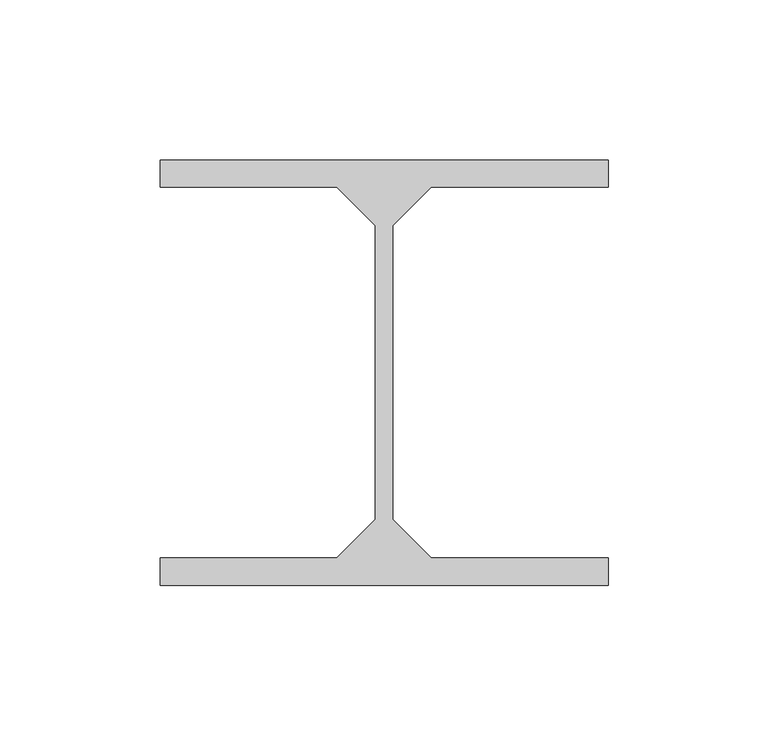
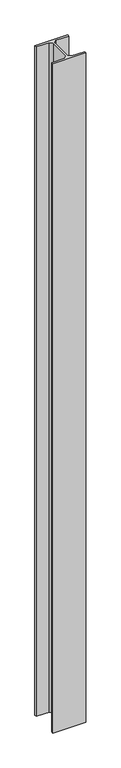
"""IFC4 building model written with IfcOpenShell, lengths in millimetres: beam geometry, Potelet 49840 : Potelet 49840."""

from ifc_helpers import new_model, si_unit, frame, origin, place, context, project, spatial, polyline, outline, extrude, source, transform, mapped, element, save


def beam_455ae0a9(model_context):
    return source(origin(), model_context, "Body", "SweptSolid", [
        extrude(outline(polyline([(7534.9999999, -34342.0), (7534.9999999, -34333.5), (7674.9999999, -34333.5), (7674.9999999, -34342.0), (7619.7499999, -34342.0), (7607.7499999, -34354.0), (7607.7499999, -34446.0), (7619.7499999, -34458.0), (7674.9999999, -34458.0), (7674.9999999, -34466.5), (7534.9999999, -34466.5), (7534.9999999, -34458.0), (7590.2499999, -34458.0), (7602.2499999, -34446.0), (7602.2499999, -34354.0), (7590.2499999, -34342.0), (7534.9999999, -34342.0)])), frame((0.0, 0.0, 7410.0), z_axis=(0.0, 0.0, 1.0), x_axis=(1.0, 0.0, 0.0)), (0.0, 0.0, 1.0), 3012.6213054),
    ])


if __name__ == "__main__":
    model = new_model("IFC4")
    model_context = context("Model", 3, world=origin())
    ifc_project = project(units=[si_unit("LENGTHUNIT", "METRE", prefix="MILLI")], contexts=[model_context])
    site = spatial("IfcSite", under=ifc_project)
    building = spatial("IfcBuilding", under=site)
    placement = place(None, origin())
    beam_shape = beam_455ae0a9(model_context)
    element("IfcBeam", 1, ObjectType="Potelet 49840 : Potelet 49840", at=placement, inside=building, context=model_context, shape_type="MappedRepresentation", body=[
        mapped(beam_shape, transform((0.0, 0.0, 0.0), x_axis=(1.0, 0.0, 0.0), y_axis=(0.0, 1.0, 0.0), z_axis=(0.0, 0.0, 1.0))),
    ])
    save(model, "model.ifc")
